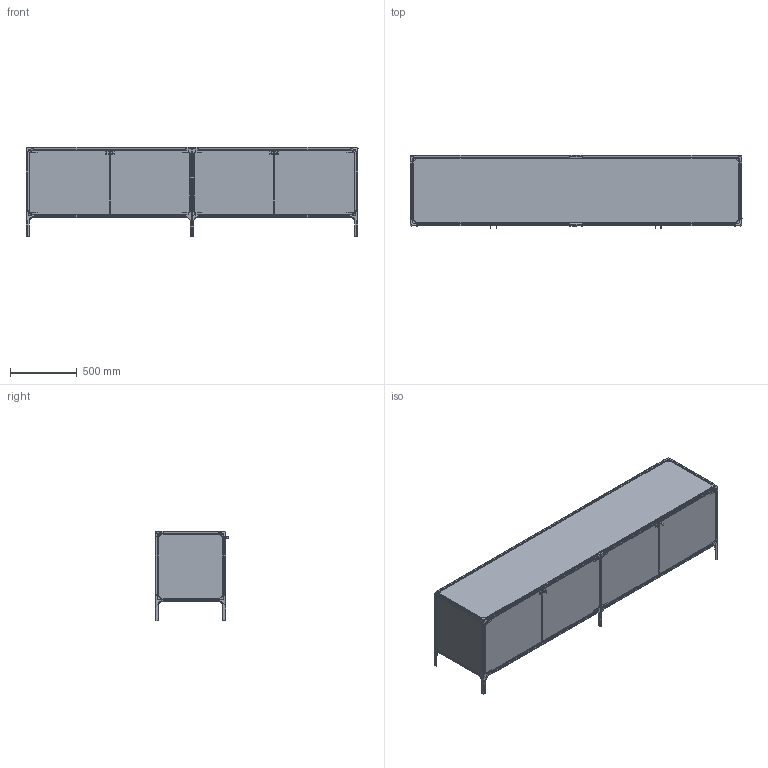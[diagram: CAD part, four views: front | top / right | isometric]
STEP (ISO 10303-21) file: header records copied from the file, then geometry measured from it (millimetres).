
FILE_DESCRIPTION(/* description */ (''),/* implementation_level */ '2;1');
FILE_NAME(/* name */ 'ECHO_V~2',/* time_stamp */ '2022-04-05T15:23:22+02:00',/* author */ (''),/* organization */ (''),/* preprocessor_version */ 'ST-DEVELOPER v16.5',/* originating_system */ '',/* authorisation */ '');
FILE_SCHEMA (('AUTOMOTIVE_DESIGN'));
Products named in the file (1): Document
Bounding box: 2490.08 x 550.6 x 671.97 mm (x, y, z)
Volume: 45139676.3 mm3; surface area: 15396352.1 mm2
Topology: 56 solids, 58 shells, 3642 faces, 21362 edges, 17704 vertices
Faces by surface type: bspline 2428, plane 1214
Entity records: 354550 total; most frequent: CARTESIAN_POINT 221573, ORIENTED_EDGE 17876, COLOUR_RGB 12308, PRESENTATION_STYLE_ASSIGNMENT 12308, STYLED_ITEM 12308, PRESENTATION_LAYER_ASSIGNMENT 12308, CURVE_STYLE 12250, EDGE_CURVE 8938
